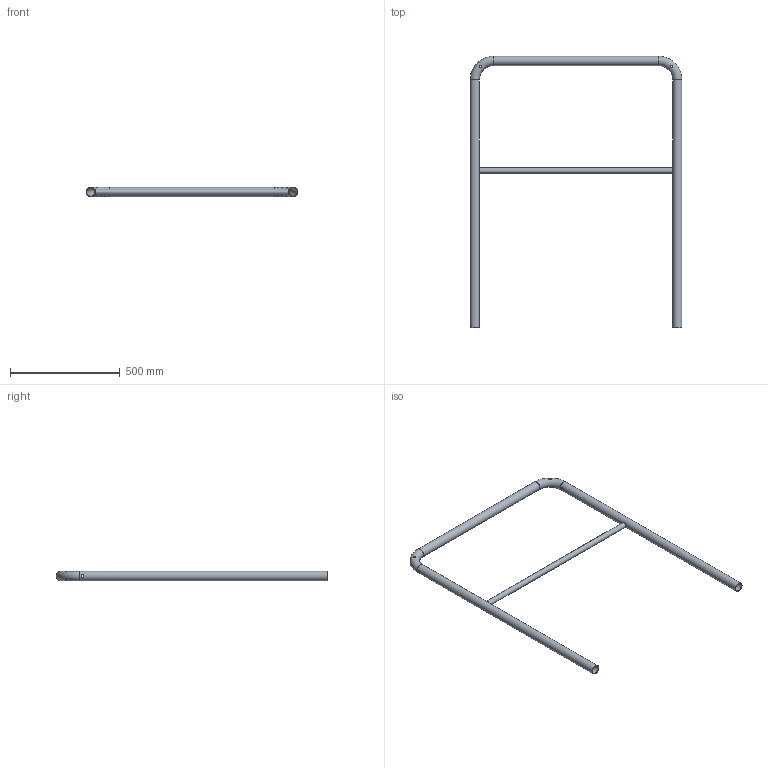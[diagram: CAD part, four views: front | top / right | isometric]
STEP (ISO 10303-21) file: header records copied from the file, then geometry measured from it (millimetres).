
FILE_DESCRIPTION((''),'2;1');
FILE_NAME('S:\Användarkataloger\AndreasA\Mina Inventor filer\Räcken\STEP\modul_ind_1000-1216.stp','2010-09-07T13:11:57',('AndreasA'),(''),'Autodesk Inventor 2011','Autodesk Inventor 2011','');
FILE_SCHEMA(('AUTOMOTIVE_DESIGN { 1 0 10303 214 1 1 1 1 }'));
Length unit declared in the file: millimetre
Products named in the file (3): modul_ind_1000-1216; handledare_modul_1000-1216; mellanliggare_modul_1000
Assembly tree (2 placements, depth 2):
  modul_ind_1000-1216
    handledare_modul_1000-1216
    mellanliggare_modul_1000
Bounding box: 965.4 x 1237.2 x 42.4 mm (x, y, z)
Volume: 958645 mm3; surface area: 959978.8 mm2
Topology: 2 solids, 2 shells, 24 faces, 64 edges, 40 vertices
Faces by surface type: cylinder 16, torus 4, plane 4
Full cylindrical faces by diameter (mm): 10 x4, 11 x4, 21 x1, 25 x1, 38.4 x3, 42.4 x3
Entity records: 1354 total; most frequent: CARTESIAN_POINT 809, DIRECTION 90, ORIENTED_EDGE 64, EDGE_LOOP 64, AXIS2_PLACEMENT_3D 45, FACE_BOUND 40, VERTEX_POINT 32, EDGE_CURVE 32
